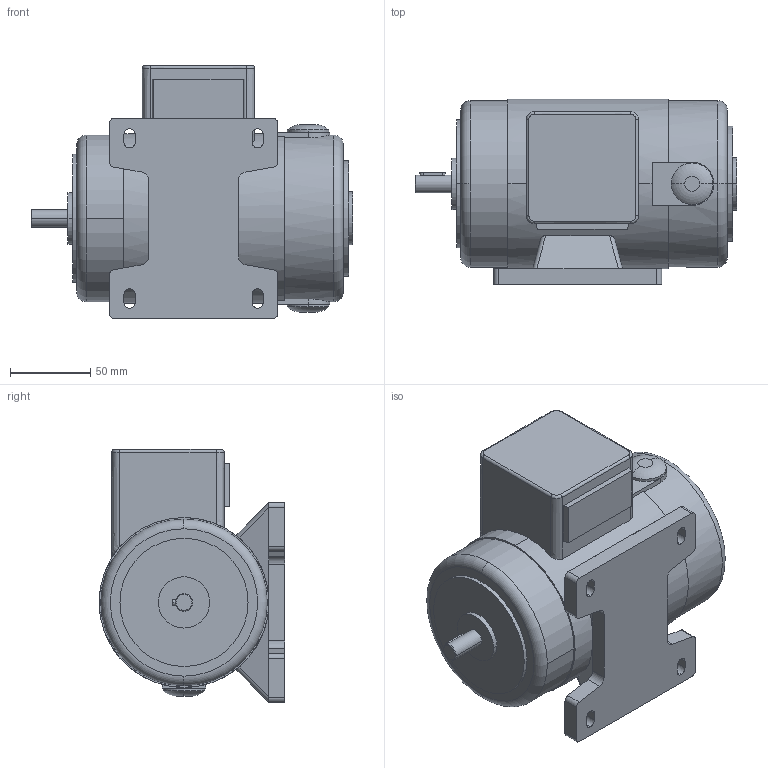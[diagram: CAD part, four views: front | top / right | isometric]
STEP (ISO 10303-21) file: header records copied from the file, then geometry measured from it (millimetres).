
FILE_DESCRIPTION(('OneSpaceDesigner STEP Export'),'2;1');
FILE_NAME('KG61-62_B3.stp','2008-04-18T11:02:03',(''),(''),'OneSpace Designer STEP processor (Jan. 2003) for AP214(CD)(Solid Model)','OneSpace Designer 12.01D 09-Jul-2004 (C) CoCreate Software GmbH','');
FILE_SCHEMA(('AUTOMOTIVE_DESIGN_CC2 {1 2 10303 214 -1 1 5 1}'));
Length unit declared in the file: millimetre
Products named in the file (2): KG61-62_B3
Assembly tree (1 placements, depth 2):
  KG61-62_B3
    KG61-62_B3
Bounding box: 201 x 116 x 158 mm (x, y, z)
Volume: 1870736.9 mm3; surface area: 107725.9 mm2
Topology: 1 solids, 1 shells, 146 faces, 379 edges, 245 vertices
Faces by surface type: plane 64, cylinder 62, torus 8, extrusion 6, bspline 4, cone 2
Entity records: 6365 total; most frequent: CARTESIAN_POINT 3068, ORIENTED_EDGE 758, DIRECTION 584, EDGE_CURVE 379, VERTEX_POINT 245, VECTOR 202, LINE 196, AXIS2_PLACEMENT_3D 191
